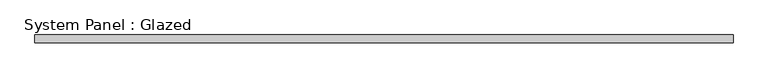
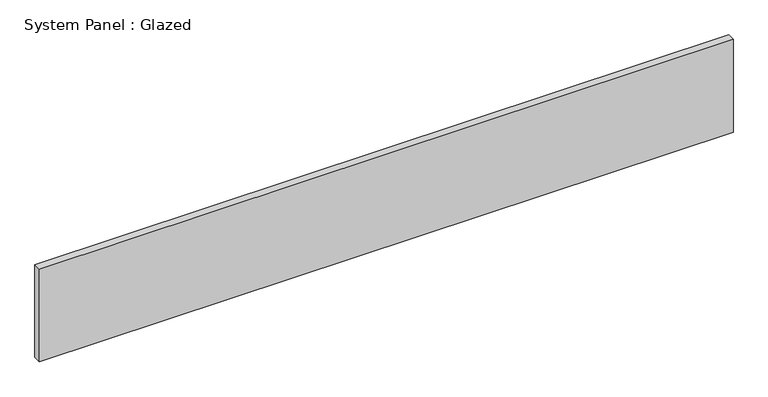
"""IFC4 building model written with IfcOpenShell, lengths in millimetres: plate geometry, System Panel : Glazed."""

from ifc_helpers import new_model, si_unit, origin, origin_with_axes, place, context, project, spatial, polyline, outline, extrude, source, transform, mapped, element, save


def system_panel_glazed_1e6cb2f1(model_context):
    return source(origin(), model_context, "Body", "SweptSolid", [
        extrude(outline(polyline([(1500.0, -17.0), (-1500.0, -17.0), (-1500.0, 17.0), (1500.0, 17.0), (1500.0, -17.0)])), origin_with_axes(), (0.0, 0.0, 1.0), 423.8394536),
    ])


if __name__ == "__main__":
    model = new_model("IFC4")
    model_context = context("Model", 3, world=origin())
    ifc_project = project(units=[si_unit("LENGTHUNIT", "METRE", prefix="MILLI")], contexts=[model_context])
    site = spatial("IfcSite", under=ifc_project)
    building = spatial("IfcBuilding", under=site)
    placement = place(None, origin())
    system_panel_glazed_shape = system_panel_glazed_1e6cb2f1(model_context)
    element("IfcPlate", 1, ObjectType="System Panel : Glazed", at=placement, inside=building, context=model_context, shape_type="MappedRepresentation", body=[
        mapped(system_panel_glazed_shape, transform((0.0, 0.0, 0.0), x_axis=(1.0, 0.0, 0.0), y_axis=(0.0, 1.0, 0.0), z_axis=(0.0, 0.0, 1.0))),
    ])
    save(model, "model.ifc")
